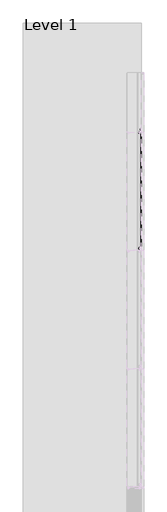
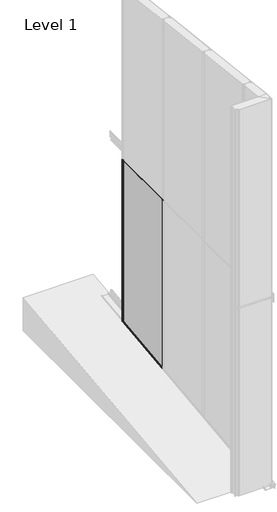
# One storey, part 9 of 12: 1 plate.
"""IFC4 building model written with IfcOpenShell, lengths in millimetres."""

from ifc_helpers import new_model, si_unit, frame, origin, place, context, project, spatial, polyline, circle_curve, ellipse_curve, element, save
from ifc_brep_helpers import plane_surface, cylinder_surface, revolved_surface, advanced_brep

model = new_model("IFC4")

# Units and contexts
model_context = context("Model", 3, world=origin())
ifc_project = project(units=[si_unit("LENGTHUNIT", "METRE", prefix="MILLI")], contexts=[model_context])

# Site, building, storey
site = spatial("IfcSite", under=ifc_project)
building = spatial("IfcBuilding", under=site)
storey = spatial("IfcBuildingStorey", under=building, Name="Level 1", Elevation=0.0)

# Plate
placement = place(None, origin())
element("IfcPlate", 1, ObjectType="TR_C_V_FHL_Panel : 120/RAL9006/RAL9002", at=placement, inside=storey, context=model_context, shape_type="AdvancedBrep", body=[
    advanced_brep(
    [(-3994.9155057, 7494.7075287, 2980.0), (-3994.9155057, 6506.1698321, 2980.0), (-3995.4720028, 6504.8263292, 2980.0), (-4000.2954046, 6500.0029273, 2980.0), (-4001.1155057, 6498.0230283, 2980.0), (-4001.1155057, 6495.2069118, 2980.0), (-4003.0155057, 6493.3069118, 2980.0), (-4008.9155057, 6493.3069118, 2980.0), (-4011.7155057, 6490.5069118, 2980.0), (-4011.7155057, 6471.3719831, 2980.0), (-4010.6206993, 6458.8582889, 2980.0), (-4002.8538462, 6457.9046392, 2980.0), (-4002.544232, 6458.8038241, 2980.0), (-4003.3006468, 6459.0642787, 2980.0), (-4003.610261, 6458.1650937, 2980.0), (-4009.8237435, 6458.9280134, 2980.0), (-4010.9155057, 6471.4069118, 2980.0), (-4010.9155057, 6490.5069118, 2980.0), (-4008.9155057, 6492.5069118, 2980.0), (-4003.0155057, 6492.5069118, 2980.0), (-4000.3155057, 6495.2069118, 2980.0), (-4000.3155057, 6498.0230283, 2980.0), (-3999.7297192, 6499.4372419, 2980.0), (-3994.9063173, 6504.2606438, 2980.0), (-3994.1155057, 6506.1698321, 2980.0), (-3994.1155057, 7494.7075287, 2980.0), (-3994.9741101, 7496.6821837, 2980.0), (-3996.9197088, 7498.4964839, 2980.0), (-4000.1155057, 7497.1069118, 2980.0), (-4000.1155057, 7464.7801836, 2980.0), (-4000.2517092, 7463.9662632, 2980.0), (-4002.5909089, 7457.1727339, 2980.0), (-4010.5519334, 7458.1502248, 2980.0), (-4011.4158468, 7468.0248012, 2980.0), (-4013.9063336, 7470.3069118, 2980.0), (-4014.9155057, 7470.3069118, 2980.0), (-4014.9155057, 7469.5069118, 2980.0), (-4013.9063336, 7469.5069118, 2980.0), (-4012.2128026, 7467.9550766, 2980.0), (-4011.3488891, 7458.0805002, 2980.0), (-4001.8344941, 7456.9122794, 2980.0), (-3999.4952944, 7463.7058087, 2980.0), (-3999.3155057, 7464.7801836, 2980.0), (-3999.3155057, 7497.1069118, 2980.0), (-3997.4653075, 7497.9114009, 2980.0), (-3995.5197088, 7496.0971008, 2980.0), (-3994.1155057, 6506.1698321, 430.9956884), (-3994.1155057, 7494.7075287, 545.9419322), (-3994.9155057, 7494.7075287, 545.9419322), (-3994.9155057, 6506.1698321, 430.9956884), (-3995.4720028, 6504.8263292, 430.8394671), (-4000.2954046, 6500.0029273, 430.2786064), (-4001.1155057, 6498.0230283, 430.0483856), (-4001.1155057, 6495.2069118, 429.7209302), (-4003.0155057, 6493.3069118, 429.5), (-4008.9155057, 6493.3069118, 429.5), (-4011.7155057, 6490.5069118, 429.1744186), (-4011.7155057, 6471.3719831, 426.9494269), (-4010.6206993, 6458.8582889, 425.4943461), (-4002.8538462, 6457.9046392, 425.3834566), (-4002.544232, 6458.8038241, 425.488013), (-4003.3006468, 6459.0642787, 425.5182984), (-4003.610261, 6458.1650937, 425.413742), (-4009.8237435, 6458.9280134, 425.5024536), (-4010.9155057, 6471.4069118, 426.9534883), (-4010.9155057, 6490.5069118, 429.1744186), (-4008.9155057, 6492.5069118, 429.4069767), (-4003.0155057, 6492.5069118, 429.4069767), (-4000.3155057, 6495.2069118, 429.7209302), (-4000.3155057, 6498.0230283, 430.0483856), (-3999.7297192, 6499.4372419, 430.212829), (-3994.9063173, 6504.2606438, 430.7736897), (-3994.9741101, 7496.6821837, 546.1715432), (-3996.9197088, 7498.4964839, 546.3825083), (-4000.1155057, 7497.1069118, 546.2209302), (-4000.1155057, 7464.7801836, 542.4620083), (-4000.2517092, 7463.9662632, 542.3673664), (-4002.5909089, 7457.1727339, 541.5774211), (-4010.5519334, 7458.1502248, 541.6910829), (-4011.4158468, 7468.0248012, 542.8392894), (-4013.9063336, 7470.3069118, 543.1046511), (-4014.9155057, 7470.3069118, 543.1046511), (-4014.9155057, 7469.5069118, 543.0116279), (-4013.9063336, 7469.5069118, 543.0116279), (-4012.2128026, 7467.9550766, 542.8311819), (-4011.3488891, 7458.0805002, 541.6829754), (-4001.8344941, 7456.9122794, 541.5471357), (-3999.4952944, 7463.7058087, 542.337081), (-3999.3155057, 7464.7801836, 542.4620083), (-3999.3155057, 7497.1069118, 546.2209302), (-3997.4653075, 7497.9114009, 546.3144754), (-3995.5197088, 7496.0971008, 546.1035103)],
    [
        (0, 1),
        (1, 2, circle_curve(frame((-3996.8155057, 6506.1698321, 2980.0), z_axis=(0.0, 0.0, -1.0), x_axis=(0.0, -1.0, 0.0)), 1.9)),
        (2, 3),
        (3, 4, circle_curve(frame((-3998.3155057, 6498.0230283, 2980.0), z_axis=(0.0, 0.0, 1.0), x_axis=(0.0, -1.0, 0.0)), 2.8)),
        (4, 5),
        (5, 6, circle_curve(frame((-4003.0155057, 6495.2069118, 2980.0), z_axis=(0.0, 0.0, -1.0), x_axis=(0.0, -1.0, 0.0)), 1.9)),
        (6, 7),
        (7, 8, circle_curve(frame((-4008.9155057, 6490.5069118, 2980.0), z_axis=(0.0, 0.0, 1.0), x_axis=(0.0, -1.0, 0.0)), 2.8)),
        (8, 9),
        (9, 10),
        (10, 11, circle_curve(frame((-4006.6359205, 6459.2069118, 2980.0), z_axis=(0.0, 0.0, 1.0), x_axis=(0.0, -1.0, 0.0)), 4.0)),
        (11, 12),
        (12, 13),
        (13, 14),
        (14, 15, circle_curve(frame((-4006.6359205, 6459.2069118, 2980.0), z_axis=(0.0, 0.0, -1.0), x_axis=(0.0, -1.0, 0.0)), 3.2)),
        (15, 16),
        (16, 17),
        (17, 18, circle_curve(frame((-4008.9155057, 6490.5069118, 2980.0), z_axis=(0.0, 0.0, -1.0), x_axis=(0.0, -1.0, 0.0)), 2.0)),
        (18, 19),
        (19, 20, circle_curve(frame((-4003.0155057, 6495.2069118, 2980.0), z_axis=(0.0, 0.0, 1.0), x_axis=(0.0, -1.0, 0.0)), 2.7)),
        (20, 21),
        (21, 22, circle_curve(frame((-3998.3155057, 6498.0230283, 2980.0), z_axis=(0.0, 0.0, -1.0), x_axis=(0.0, -1.0, 0.0)), 2.0)),
        (22, 23),
        (23, 24, circle_curve(frame((-3996.8155057, 6506.1698321, 2980.0), z_axis=(0.0, 0.0, 1.0), x_axis=(0.0, -1.0, 0.0)), 2.7)),
        (24, 25),
        (25, 26, circle_curve(frame((-3996.8155057, 7494.7075287, 2980.0), z_axis=(0.0, 0.0, 1.0), x_axis=(0.0, -1.0, 0.0)), 2.7)),
        (26, 27),
        (27, 28, circle_curve(frame((-3998.2155057, 7497.1069118, 2980.0), z_axis=(0.0, 0.0, 1.0), x_axis=(0.0, -1.0, 0.0)), 1.9)),
        (28, 29),
        (29, 30, circle_curve(frame((-4002.6155057, 7464.7801836, 2980.0), z_axis=(0.0, 0.0, -1.0), x_axis=(0.0, -1.0, 0.0)), 2.5)),
        (30, 31),
        (31, 32, circle_curve(frame((-4006.4675351, 7458.5075634, 2980.0), z_axis=(0.0, 0.0, -1.0), x_axis=(0.0, -1.0, 0.0)), 4.1)),
        (32, 33),
        (33, 34, circle_curve(frame((-4013.9063336, 7467.8069118, 2980.0), z_axis=(0.0, 0.0, 1.0), x_axis=(0.0, -1.0, 0.0)), 2.5)),
        (34, 35),
        (35, 36),
        (36, 37),
        (37, 38, circle_curve(frame((-4013.9063336, 7467.8069118, 2980.0), z_axis=(0.0, 0.0, -1.0), x_axis=(0.0, -1.0, 0.0)), 1.7)),
        (38, 39),
        (39, 40, circle_curve(frame((-4006.4675351, 7458.5075634, 2980.0), z_axis=(0.0, 0.0, 1.0), x_axis=(0.0, -1.0, 0.0)), 4.9)),
        (40, 41),
        (41, 42, circle_curve(frame((-4002.6155057, 7464.7801836, 2980.0), z_axis=(0.0, 0.0, 1.0), x_axis=(0.0, -1.0, 0.0)), 3.3)),
        (42, 43),
        (43, 44, circle_curve(frame((-3998.2155057, 7497.1069118, 2980.0), z_axis=(0.0, 0.0, -1.0), x_axis=(0.0, -1.0, 0.0)), 1.1)),
        (44, 45),
        (45, 0, circle_curve(frame((-3996.8155057, 7494.7075287, 2980.0), z_axis=(0.0, 0.0, -1.0), x_axis=(0.0, -1.0, 0.0)), 1.9)),
        (24, 46),
        (46, 47),
        (47, 25),
        (0, 48),
        (48, 49),
        (49, 1),
        (49, 50, ellipse_curve(frame((-3996.8155057, 6506.1698321, 430.9956884), z_axis=(0.0, 0.11550085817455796, -0.9933073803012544), x_axis=(0.0, -0.9933073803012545, -0.11550085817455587)), 1.9128017, 1.9)),
        (50, 2),
        (50, 51),
        (51, 3),
        (51, 52, ellipse_curve(frame((-3998.3155057, 6498.0230283, 430.0483856), z_axis=(0.0, -0.11550085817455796, 0.9933073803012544), x_axis=(0.0, 0.9933073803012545, 0.11550085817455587)), 2.8188656, 2.8)),
        (52, 4),
        (52, 53),
        (53, 5),
        (53, 54, ellipse_curve(frame((-4003.0155057, 6495.2069118, 429.7209302), z_axis=(0.0, 0.11550085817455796, -0.9933073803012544), x_axis=(0.0, -0.9933073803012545, -0.11550085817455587)), 1.9128017, 1.9)),
        (54, 6),
        (54, 55),
        (55, 7),
        (55, 56, ellipse_curve(frame((-4008.9155057, 6490.5069118, 429.1744186), z_axis=(0.0, -0.11550085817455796, 0.9933073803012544), x_axis=(0.0, 0.9933073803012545, 0.11550085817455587)), 2.8188656, 2.8)),
        (56, 8),
        (56, 57),
        (57, 9),
        (57, 58),
        (58, 10),
        (58, 59, ellipse_curve(frame((-4006.6359205, 6459.2069118, 425.5348837), z_axis=(0.0, -0.11550085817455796, 0.9933073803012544), x_axis=(0.0, 0.9933073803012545, 0.11550085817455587)), 4.0269509, 4.0)),
        (59, 11),
        (59, 60),
        (60, 12),
        (60, 61),
        (61, 13),
        (61, 62),
        (62, 14),
        (62, 63, ellipse_curve(frame((-4006.6359205, 6459.2069118, 425.5348837), z_axis=(0.0, 0.11550085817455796, -0.9933073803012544), x_axis=(0.0, -0.9933073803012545, -0.11550085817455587)), 3.2215607, 3.2)),
        (63, 15),
        (63, 64),
        (64, 16),
        (64, 65),
        (65, 17),
        (65, 66, ellipse_curve(frame((-4008.9155057, 6490.5069118, 429.1744186), z_axis=(0.0, 0.11550085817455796, -0.9933073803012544), x_axis=(0.0, -0.9933073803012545, -0.11550085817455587)), 2.0134754, 2.0)),
        (66, 18),
        (66, 67),
        (67, 19),
        (67, 68, ellipse_curve(frame((-4003.0155057, 6495.2069118, 429.7209302), z_axis=(0.0, -0.11550085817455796, 0.9933073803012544), x_axis=(0.0, 0.9933073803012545, 0.11550085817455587)), 2.7181918, 2.7)),
        (68, 20),
        (68, 69),
        (69, 21),
        (69, 70, ellipse_curve(frame((-3998.3155057, 6498.0230283, 430.0483856), z_axis=(0.0, 0.11550085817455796, -0.9933073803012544), x_axis=(0.0, -0.9933073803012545, -0.11550085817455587)), 2.0134754, 2.0)),
        (70, 22),
        (70, 71),
        (71, 23),
        (71, 46, ellipse_curve(frame((-3996.8155057, 6506.1698321, 430.9956884), z_axis=(0.0, -0.11550085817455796, 0.9933073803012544), x_axis=(0.0, 0.9933073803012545, 0.11550085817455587)), 2.7181918, 2.7)),
        (47, 72, ellipse_curve(frame((-3996.8155057, 7494.7075287, 545.9419322), z_axis=(0.0, -0.11550085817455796, 0.9933073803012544), x_axis=(0.0, 0.9933073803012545, 0.11550085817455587)), 2.7181918, 2.7)),
        (72, 26),
        (72, 73),
        (73, 27),
        (73, 74, ellipse_curve(frame((-3998.2155057, 7497.1069118, 546.2209302), z_axis=(0.0, -0.11550085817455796, 0.9933073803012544), x_axis=(0.0, 0.9933073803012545, 0.11550085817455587)), 1.9128017, 1.9)),
        (74, 28),
        (74, 75),
        (75, 29),
        (75, 76, ellipse_curve(frame((-4002.6155057, 7464.7801836, 542.4620083), z_axis=(0.0, 0.11550085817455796, -0.9933073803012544), x_axis=(0.0, -0.9933073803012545, -0.11550085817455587)), 2.5168443, 2.5)),
        (76, 30),
        (76, 77),
        (77, 31),
        (77, 78, ellipse_curve(frame((-4006.4675351, 7458.5075634, 541.7326339), z_axis=(0.0, 0.11550085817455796, -0.9933073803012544), x_axis=(0.0, -0.9933073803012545, -0.11550085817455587)), 4.1276246, 4.1)),
        (78, 32),
        (78, 79),
        (79, 33),
        (79, 80, ellipse_curve(frame((-4013.9063336, 7467.8069118, 542.8139535), z_axis=(0.0, -0.11550085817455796, 0.9933073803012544), x_axis=(0.0, 0.9933073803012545, 0.11550085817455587)), 2.5168443, 2.5)),
        (80, 34),
        (80, 81),
        (81, 35),
        (81, 82),
        (82, 36),
        (82, 83),
        (83, 37),
        (83, 84, ellipse_curve(frame((-4013.9063336, 7467.8069118, 542.8139535), z_axis=(0.0, 0.11550085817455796, -0.9933073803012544), x_axis=(0.0, -0.9933073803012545, -0.11550085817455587)), 1.7114541, 1.7)),
        (84, 38),
        (84, 85),
        (85, 39),
        (85, 86, ellipse_curve(frame((-4006.4675351, 7458.5075634, 541.7326339), z_axis=(0.0, -0.11550085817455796, 0.9933073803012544), x_axis=(0.0, 0.9933073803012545, 0.11550085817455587)), 4.9330148, 4.9)),
        (86, 40),
        (86, 87),
        (87, 41),
        (87, 88, ellipse_curve(frame((-4002.6155057, 7464.7801836, 542.4620083), z_axis=(0.0, -0.11550085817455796, 0.9933073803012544), x_axis=(0.0, 0.9933073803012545, 0.11550085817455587)), 3.3222345, 3.3)),
        (88, 42),
        (88, 89),
        (89, 43),
        (89, 90, ellipse_curve(frame((-3998.2155057, 7497.1069118, 546.2209302), z_axis=(0.0, 0.11550085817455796, -0.9933073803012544), x_axis=(0.0, -0.9933073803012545, -0.11550085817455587)), 1.1074115, 1.1)),
        (90, 44),
        (90, 91),
        (91, 45),
        (91, 48, ellipse_curve(frame((-3996.8155057, 7494.7075287, 545.9419322), z_axis=(0.0, 0.11550085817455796, -0.9933073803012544), x_axis=(0.0, -0.9933073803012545, -0.11550085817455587)), 1.9128017, 1.9)),
    ],
    [
        plane_surface(frame((-3994.9155057, 6485.2850853, 2980.0), z_axis=(0.0, 0.0, 1.0), x_axis=(0.0, -1.0, 0.0))),
        plane_surface(frame((-3994.1155057, 6506.1698321, 2980.0), z_axis=(1.0, 0.0, 0.0), x_axis=(0.0, 0.0, -1.0))),
        plane_surface(frame((-3994.9155057, 7494.7075287, 2980.0), z_axis=(-1.0, 0.0, 0.0), x_axis=(0.0, 0.0, -1.0))),
        revolved_surface(polyline([(-3996.8155057, 6504.269832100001, 430.77475816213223), (-3996.8155057, 6504.269832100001, 2980.0)]), (-3996.8155057, 6506.1698321, 150.0), (0.0, 0.0, -1.0)),
        plane_surface(frame((-3995.4720028, 6504.8263292, 2980.0), z_axis=(-0.7071067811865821, 0.7071067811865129, 0.0), x_axis=(0.0, 0.0, -1.0))),
        cylinder_surface(frame((-3998.3155057, 6498.0230283, 150.0), z_axis=(0.0, 0.0, 1.0), x_axis=(0.0, -1.0, 0.0)), 2.8),
        plane_surface(frame((-4001.1155057, 6498.0230283, 2980.0), z_axis=(-1.0, 0.0, 0.0), x_axis=(0.0, 0.0, -1.0))),
        revolved_surface(polyline([(-4003.0155057, 6493.3069118, 429.4999999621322), (-4003.0155057, 6493.3069118, 2980.0)]), (-4003.0155057, 6495.2069118, 150.0), (0.0, 0.0, -1.0)),
        plane_surface(frame((-4003.0155057, 6493.3069118, 2980.0), z_axis=(0.0, 1.0, 0.0), x_axis=(0.0, 0.0, -1.0))),
        cylinder_surface(frame((-4008.9155057, 6490.5069118, 150.0), z_axis=(0.0, 0.0, 1.0), x_axis=(0.0, -1.0, 0.0)), 2.8),
        plane_surface(frame((-4011.7155057, 6490.5069118, 2980.0), z_axis=(-1.0, 0.0, 0.0), x_axis=(0.0, 0.0, -1.0))),
        plane_surface(frame((-4011.7155057, 6471.3719831, 2980.0), z_axis=(-0.9961946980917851, -0.08715574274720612, 0.0), x_axis=(0.0, 0.0, -1.0))),
        cylinder_surface(frame((-4006.6359205, 6459.2069118, 150.0), z_axis=(0.0, 0.0, 1.0), x_axis=(0.0, -1.0, 0.0)), 4.0),
        plane_surface(frame((-4002.8538462, 6457.9046392, 2980.0), z_axis=(0.9455185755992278, -0.32556815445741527, 0.0), x_axis=(0.0, 0.0, -1.0))),
        plane_surface(frame((-4002.544232, 6458.8038241, 2980.0), z_axis=(0.325568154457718, 0.9455185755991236, 0.0), x_axis=(0.0, 0.0, -1.0))),
        plane_surface(frame((-4003.3006468, 6459.0642787, 2980.0), z_axis=(-0.9455185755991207, 0.32556815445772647, 0.0), x_axis=(0.0, 0.0, -1.0))),
        revolved_surface(polyline([(-4006.6359205, 6456.0069118, 425.1627906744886), (-4006.6359205, 6456.0069118, 2980.0)]), (-4006.6359205, 6459.2069118, 150.0), (0.0, 0.0, -1.0)),
        plane_surface(frame((-4009.8237435, 6458.9280134, 2980.0), z_axis=(0.9961946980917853, 0.08715574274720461, 0.0), x_axis=(0.0, 0.0, -1.0))),
        plane_surface(frame((-4010.9155057, 6471.4069118, 2980.0), z_axis=(1.0, 0.0, 0.0), x_axis=(0.0, 0.0, -1.0))),
        revolved_surface(polyline([(-4008.9155057, 6488.5069118, 428.94186046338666), (-4008.9155057, 6488.5069118, 2980.0)]), (-4008.9155057, 6490.5069118, 150.0), (0.0, 0.0, -1.0)),
        plane_surface(frame((-4008.9155057, 6492.5069118, 2980.0), z_axis=(0.0, -1.0, 0.0), x_axis=(0.0, 0.0, -1.0))),
        cylinder_surface(frame((-4003.0155057, 6495.2069118, 150.0), z_axis=(0.0, 0.0, 1.0), x_axis=(0.0, -1.0, 0.0)), 2.7),
        plane_surface(frame((-4000.3155057, 6495.2069118, 2980.0), z_axis=(1.0, 0.0, 0.0), x_axis=(0.0, 0.0, -1.0))),
        revolved_surface(polyline([(-3998.3155057, 6496.0230283, 429.81582746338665), (-3998.3155057, 6496.0230283, 2980.0)]), (-3998.3155057, 6498.0230283, 150.0), (0.0, 0.0, -1.0)),
        plane_surface(frame((-3999.7297192, 6499.4372419, 2980.0), z_axis=(0.7071067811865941, -0.707106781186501, 0.0), x_axis=(0.0, 0.0, -1.0))),
        cylinder_surface(frame((-3996.8155057, 6506.1698321, 150.0), z_axis=(0.0, 0.0, 1.0), x_axis=(0.0, -1.0, 0.0)), 2.7),
        cylinder_surface(frame((-3996.8155057, 7494.7075287, 150.0), z_axis=(0.0, 0.0, 1.0), x_axis=(0.0, -1.0, 0.0)), 2.7),
        plane_surface(frame((-3994.9741101, 7496.6821837, 2980.0), z_axis=(0.6819983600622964, 0.7313537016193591, 0.0), x_axis=(0.0, 0.0, -1.0))),
        cylinder_surface(frame((-3998.2155057, 7497.1069118, 150.0), z_axis=(0.0, 0.0, 1.0), x_axis=(0.0, -1.0, 0.0)), 1.9),
        plane_surface(frame((-4000.1155057, 7497.1069118, 2980.0), z_axis=(-1.0, 0.0, 0.0), x_axis=(0.0, 0.0, -1.0))),
        revolved_surface(polyline([(-4002.6155057, 7462.2801836, 542.1713106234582), (-4002.6155057, 7462.2801836, 2980.0)]), (-4002.6155057, 7464.7801836, 150.0), (0.0, 0.0, -1.0)),
        plane_surface(frame((-4000.2517092, 7463.9662632, 2980.0), z_axis=(-0.9455185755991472, 0.3255681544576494, 0.0), x_axis=(0.0, 0.0, -1.0))),
        revolved_surface(polyline([(-4006.4675351, 7454.4075634, 541.2558897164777), (-4006.4675351, 7454.4075634, 2980.0)]), (-4006.4675351, 7458.5075634, 150.0), (0.0, 0.0, -1.0)),
        plane_surface(frame((-4010.5519334, 7458.1502248, 2980.0), z_axis=(0.9961946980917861, 0.08715574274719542, 0.0), x_axis=(0.0, 0.0, -1.0))),
        cylinder_surface(frame((-4013.9063336, 7467.8069118, 150.0), z_axis=(0.0, 0.0, 1.0), x_axis=(0.0, -1.0, 0.0)), 2.5),
        plane_surface(frame((-4013.9063336, 7470.3069118, 2980.0), z_axis=(0.0, 1.0, 0.0), x_axis=(0.0, 0.0, -1.0))),
        plane_surface(frame((-4014.9155057, 7470.3069118, 2980.0), z_axis=(-1.0, 0.0, 0.0), x_axis=(0.0, 0.0, -1.0))),
        plane_surface(frame((-4014.9155057, 7469.5069118, 2980.0), z_axis=(0.0, -1.0, 0.0), x_axis=(0.0, 0.0, -1.0))),
        revolved_surface(polyline([(-4013.9063336, 7466.1069118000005, 542.6162790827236), (-4013.9063336, 7466.1069118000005, 2980.0)]), (-4013.9063336, 7467.8069118, 150.0), (0.0, 0.0, -1.0)),
        plane_surface(frame((-4012.2128026, 7467.9550766, 2980.0), z_axis=(-0.9961946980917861, -0.08715574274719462, 0.0), x_axis=(0.0, 0.0, -1.0))),
        cylinder_surface(frame((-4006.4675351, 7458.5075634, 150.0), z_axis=(0.0, 0.0, 1.0), x_axis=(0.0, -1.0, 0.0)), 4.9),
        plane_surface(frame((-4001.8344941, 7456.9122794, 2980.0), z_axis=(0.9455185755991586, -0.3255681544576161, 0.0), x_axis=(0.0, 0.0, -1.0))),
        cylinder_surface(frame((-4002.6155057, 7464.7801836, 150.0), z_axis=(0.0, 0.0, 1.0), x_axis=(0.0, -1.0, 0.0)), 3.3),
        plane_surface(frame((-3999.3155057, 7464.7801836, 2980.0), z_axis=(1.0, 0.0, 0.0), x_axis=(0.0, 0.0, -1.0))),
        revolved_surface(polyline([(-3998.2155057, 7496.006911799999, 546.0930232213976), (-3998.2155057, 7496.006911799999, 2980.0)]), (-3998.2155057, 7497.1069118, 150.0), (0.0, 0.0, -1.0)),
        plane_surface(frame((-3997.4653075, 7497.9114009, 2980.0), z_axis=(-0.6819983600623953, -0.7313537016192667, 0.0), x_axis=(0.0, 0.0, -1.0))),
        revolved_surface(polyline([(-3996.8155057, 7492.8075287, 545.7210019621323), (-3996.8155057, 7492.8075287, 2980.0)]), (-3996.8155057, 7494.7075287, 150.0), (0.0, 0.0, -1.0)),
        plane_surface(frame((-3994.1155057, 6239.6069121, 400.0), z_axis=(0.0, 0.11550085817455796, -0.9933073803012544), x_axis=(0.0, 0.9933073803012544, 0.11550085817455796))),
    ],
    [
        (0, [[1, 2, 3, 4, 5, 6, 7, 8, 9, 10, 11, 12, 13, 14, 15, 16, 17, 18, 19, 20, 21, 22, 23, 24, 25, 26, 27, 28, 29, 30, 31, 32, 33, 34, 35, 36, 37, 38, 39, 40, 41, 42, 43, 44, 45, 46]]),
        (1, [[-25, 47, 48, 49]]),
        (2, [[-1, 50, 51, 52]]),
        (3, [[-2, -52, 53, 54]]),
        (4, [[-3, -54, 55, 56]]),
        (5, [[-4, -56, 57, 58]]),
        (6, [[-5, -58, 59, 60]]),
        (7, [[-6, -60, 61, 62]]),
        (8, [[-7, -62, 63, 64]]),
        (9, [[-8, -64, 65, 66]]),
        (10, [[-9, -66, 67, 68]]),
        (11, [[-10, -68, 69, 70]]),
        (12, [[-11, -70, 71, 72]]),
        (13, [[-12, -72, 73, 74]]),
        (14, [[-13, -74, 75, 76]]),
        (15, [[-14, -76, 77, 78]]),
        (16, [[-15, -78, 79, 80]]),
        (17, [[-16, -80, 81, 82]]),
        (18, [[-17, -82, 83, 84]]),
        (19, [[-18, -84, 85, 86]]),
        (20, [[-19, -86, 87, 88]]),
        (21, [[-20, -88, 89, 90]]),
        (22, [[-21, -90, 91, 92]]),
        (23, [[-22, -92, 93, 94]]),
        (24, [[-23, -94, 95, 96]]),
        (25, [[-24, -96, 97, -47]]),
        (26, [[-26, -49, 98, 99]]),
        (27, [[-27, -99, 100, 101]]),
        (28, [[-28, -101, 102, 103]]),
        (29, [[-29, -103, 104, 105]]),
        (30, [[-30, -105, 106, 107]]),
        (31, [[-31, -107, 108, 109]]),
        (32, [[-32, -109, 110, 111]]),
        (33, [[-33, -111, 112, 113]]),
        (34, [[-34, -113, 114, 115]]),
        (35, [[-35, -115, 116, 117]]),
        (36, [[-36, -117, 118, 119]]),
        (37, [[-37, -119, 120, 121]]),
        (38, [[-38, -121, 122, 123]]),
        (39, [[-39, -123, 124, 125]]),
        (40, [[-40, -125, 126, 127]]),
        (41, [[-41, -127, 128, 129]]),
        (42, [[-42, -129, 130, 131]]),
        (43, [[-43, -131, 132, 133]]),
        (44, [[-44, -133, 134, 135]]),
        (45, [[-45, -135, 136, 137]]),
        (46, [[-46, -137, 138, -50]]),
        (47, [[-48, -97, -95, -93, -91, -89, -87, -85, -83, -81, -79, -77, -75, -73, -71, -69, -67, -65, -63, -61, -59, -57, -55, -53, -51, -138, -136, -134, -132, -130, -128, -126, -124, -122, -120, -118, -116, -114, -112, -110, -108, -106, -104, -102, -100, -98]]),
    ],
),
    advanced_brep(
    [(-4113.3155057, 7449.7069118, 2980.0), (-4113.3155057, 6479.7850864, 2980.0), (-4112.6711406, 6478.2294515, 2980.0), (-4108.2820533, 6473.8403642, 2980.0), (-4107.3155057, 6471.5069118, 2980.0), (-4107.3155057, 6469.6069118, 2980.0), (-4011.5610819, 6469.6069118, 2980.0), (-4011.7155057, 6471.3719831, 2980.0), (-4011.7155057, 6490.5069118, 2980.0), (-4008.9155057, 6493.3069118, 2980.0), (-4003.0155057, 6493.3069118, 2980.0), (-4001.1155057, 6495.2069118, 2980.0), (-4001.1155057, 6498.0230283, 2980.0), (-4000.2954046, 6500.0029273, 2980.0), (-3995.4720028, 6504.8263292, 2980.0), (-3994.9155057, 6506.1698321, 2980.0), (-3994.9155057, 7453.6075634, 2980.0), (-4006.4675351, 7453.6075634, 2980.0), (-4011.3488891, 7458.0805002, 2980.0), (-4012.2128026, 7467.9550766, 2980.0), (-4013.9063336, 7469.5069118, 2980.0), (-4014.9155057, 7469.6069118, 2980.0), (-4088.9755057, 7469.6069118, 2980.0), (-4088.9755057, 7461.7069118, 2980.0), (-4096.5080645, 7461.7069118, 2980.0), (-4099.4132474, 7459.2691739, 2980.0), (-4100.4800727, 7453.2189071, 2980.0), (-4104.6655057, 7449.7069118, 2980.0), (-4113.3155057, 7449.7069118, 540.7093023), (-4113.3155057, 6479.7850864, 427.9276947), (-4112.6711406, 6478.2294515, 427.7468069), (-4108.2820533, 6473.8403642, 427.2364479), (-4107.3155057, 6471.5069118, 426.9651162), (-4107.3155057, 6469.6069118, 426.744186), (-4011.5610819, 6469.6069118, 426.744186), (-4011.7155057, 6471.3719831, 426.9494269), (-4011.7155057, 6490.5069118, 429.1744186), (-4008.9155057, 6493.3069118, 429.5), (-4003.0155057, 6493.3069118, 429.5), (-4001.1155057, 6495.2069118, 429.7209302), (-4001.1155057, 6498.0230283, 430.0483856), (-4000.2954046, 6500.0029273, 430.2786064), (-3995.4720028, 6504.8263292, 430.8394671), (-3994.9155057, 6506.1698321, 430.9956884), (-3994.9155057, 7453.6075634, 541.1628664), (-4006.4675351, 7453.6075634, 541.1628664), (-4011.3488891, 7458.0805002, 541.6829754), (-4012.2128026, 7467.9550766, 542.8311819), (-4013.9063336, 7469.5069118, 543.0116279), (-4014.9155057, 7469.6069118, 543.0232558), (-4088.9755057, 7469.6069118, 543.0232558), (-4088.9755057, 7461.7069118, 542.1046511), (-4096.5080645, 7461.7069118, 542.1046511), (-4099.4132474, 7459.2691739, 541.8211932), (-4100.4800727, 7453.2189071, 541.1176738), (-4104.6655057, 7449.7069118, 540.7093023)],
    [
        (0, 1),
        (1, 2, circle_curve(frame((-4111.1155057, 6479.7850864, 2980.0), z_axis=(0.0, 0.0, 1.0), x_axis=(0.0, -1.0, 0.0)), 2.2)),
        (2, 3),
        (3, 4, circle_curve(frame((-4110.6155057, 6471.5069118, 2980.0), z_axis=(0.0, 0.0, -1.0), x_axis=(0.0, -1.0, 0.0)), 3.3)),
        (4, 5),
        (5, 6),
        (6, 7),
        (7, 8),
        (8, 9, circle_curve(frame((-4008.9155057, 6490.5069118, 2980.0), z_axis=(0.0, 0.0, -1.0), x_axis=(0.0, -1.0, 0.0)), 2.8)),
        (9, 10),
        (10, 11, circle_curve(frame((-4003.0155057, 6495.2069118, 2980.0), z_axis=(0.0, 0.0, 1.0), x_axis=(0.0, -1.0, 0.0)), 1.9)),
        (11, 12),
        (12, 13, circle_curve(frame((-3998.3155057, 6498.0230283, 2980.0), z_axis=(0.0, 0.0, -1.0), x_axis=(0.0, -1.0, 0.0)), 2.8)),
        (13, 14),
        (14, 15, circle_curve(frame((-3996.8155057, 6506.1698321, 2980.0), z_axis=(0.0, 0.0, 1.0), x_axis=(0.0, -1.0, 0.0)), 1.9)),
        (15, 16),
        (16, 17),
        (17, 18, circle_curve(frame((-4006.4675351, 7458.5075634, 2980.0), z_axis=(0.0, 0.0, -1.0), x_axis=(0.0, -1.0, 0.0)), 4.9)),
        (18, 19),
        (19, 20, circle_curve(frame((-4013.9063336, 7467.8069118, 2980.0), z_axis=(0.0, 0.0, 1.0), x_axis=(0.0, -1.0, 0.0)), 1.7)),
        (20, 21),
        (21, 22),
        (22, 23),
        (23, 24),
        (24, 25, circle_curve(frame((-4096.5080645, 7458.7569118, 2980.0), z_axis=(0.0, 0.0, 1.0), x_axis=(0.0, -1.0, 0.0)), 2.95)),
        (25, 26),
        (26, 27, circle_curve(frame((-4104.6655057, 7453.9569118, 2980.0), z_axis=(0.0, 0.0, -1.0), x_axis=(0.0, -1.0, 0.0)), 4.25)),
        (27, 0),
        (0, 28),
        (28, 29),
        (29, 1),
        (29, 30, ellipse_curve(frame((-4111.1155057, 6479.7850864, 427.9276947), z_axis=(0.0, -0.11550085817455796, 0.9933073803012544), x_axis=(0.0, 0.9933073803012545, 0.11550085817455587)), 2.214823, 2.2)),
        (30, 2),
        (30, 31),
        (31, 3),
        (31, 32, ellipse_curve(frame((-4110.6155057, 6471.5069118, 426.9651162), z_axis=(0.0, 0.11550085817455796, -0.9933073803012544), x_axis=(0.0, -0.9933073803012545, -0.11550085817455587)), 3.3222345, 3.3)),
        (32, 4),
        (32, 33),
        (33, 5),
        (33, 34),
        (34, 6),
        (34, 35),
        (35, 7),
        (35, 36),
        (36, 8),
        (36, 37, ellipse_curve(frame((-4008.9155057, 6490.5069118, 429.1744186), z_axis=(0.0, 0.11550085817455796, -0.9933073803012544), x_axis=(0.0, -0.9933073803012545, -0.11550085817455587)), 2.8188656, 2.8)),
        (37, 9),
        (37, 38),
        (38, 10),
        (38, 39, ellipse_curve(frame((-4003.0155057, 6495.2069118, 429.7209302), z_axis=(0.0, -0.11550085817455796, 0.9933073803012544), x_axis=(0.0, 0.9933073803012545, 0.11550085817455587)), 1.9128017, 1.9)),
        (39, 11),
        (39, 40),
        (40, 12),
        (40, 41, ellipse_curve(frame((-3998.3155057, 6498.0230283, 430.0483856), z_axis=(0.0, 0.11550085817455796, -0.9933073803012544), x_axis=(0.0, -0.9933073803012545, -0.11550085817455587)), 2.8188656, 2.8)),
        (41, 13),
        (41, 42),
        (42, 14),
        (42, 43, ellipse_curve(frame((-3996.8155057, 6506.1698321, 430.9956884), z_axis=(0.0, -0.11550085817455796, 0.9933073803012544), x_axis=(0.0, 0.9933073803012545, 0.11550085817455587)), 1.9128017, 1.9)),
        (43, 15),
        (43, 44),
        (44, 16),
        (44, 45),
        (45, 17),
        (45, 46, ellipse_curve(frame((-4006.4675351, 7458.5075634, 541.7326339), z_axis=(0.0, 0.11550085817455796, -0.9933073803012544), x_axis=(0.0, -0.9933073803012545, -0.11550085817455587)), 4.9330148, 4.9)),
        (46, 18),
        (46, 47),
        (47, 19),
        (47, 48, ellipse_curve(frame((-4013.9063336, 7467.8069118, 542.8139535), z_axis=(0.0, -0.11550085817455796, 0.9933073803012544), x_axis=(0.0, 0.9933073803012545, 0.11550085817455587)), 1.7114541, 1.7)),
        (48, 20),
        (48, 49),
        (49, 21),
        (49, 50),
        (50, 22),
        (50, 51),
        (51, 23),
        (51, 52),
        (52, 24),
        (52, 53, ellipse_curve(frame((-4096.5080645, 7458.7569118, 541.7616279), z_axis=(0.0, -0.11550085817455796, 0.9933073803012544), x_axis=(0.0, 0.9933073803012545, 0.11550085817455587)), 2.9698763, 2.95)),
        (53, 25),
        (53, 54),
        (54, 26),
        (54, 55, ellipse_curve(frame((-4104.6655057, 7453.9569118, 541.2034883), z_axis=(0.0, 0.11550085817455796, -0.9933073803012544), x_axis=(0.0, -0.9933073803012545, -0.11550085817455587)), 4.2786353, 4.25)),
        (55, 27),
        (55, 28),
    ],
    [
        plane_surface(frame((-4113.3155057, 6479.7850864, 2980.0), z_axis=(0.0, 0.0, 1.0), x_axis=(0.0, -1.0, 0.0))),
        plane_surface(frame((-4113.3155057, 7449.7069118, 2980.0), z_axis=(-1.0, 0.0, 0.0), x_axis=(0.0, 0.0, -1.0))),
        cylinder_surface(frame((-4111.1155057, 6479.7850864, 150.0), z_axis=(0.0, 0.0, 1.0), x_axis=(0.0, -1.0, 0.0)), 2.2),
        plane_surface(frame((-4112.6711406, 6478.2294515, 2980.0), z_axis=(-0.7071067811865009, -0.7071067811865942, 0.0), x_axis=(0.0, 0.0, -1.0))),
        revolved_surface(polyline([(-4110.6155057, 6468.2069118, 426.5813952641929), (-4110.6155057, 6468.2069118, 2980.0)]), (-4110.6155057, 6471.5069118, 150.0), (0.0, 0.0, -1.0)),
        plane_surface(frame((-4107.3155057, 6471.5069118, 2980.0), z_axis=(-1.0, 0.0, 0.0), x_axis=(0.0, 0.0, -1.0))),
        plane_surface(frame((-4107.3155057, 6469.6069118, 2980.0), z_axis=(0.0, -1.0, 0.0), x_axis=(0.0, 0.0, -1.0))),
        plane_surface(frame((-4011.5610819, 6469.6069118, 2980.0), z_axis=(0.9961946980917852, 0.08715574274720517, 0.0), x_axis=(0.0, 0.0, -1.0))),
        plane_surface(frame((-4011.7155057, 6471.3719831, 2980.0), z_axis=(1.0, 0.0, 0.0), x_axis=(0.0, 0.0, -1.0))),
        revolved_surface(polyline([(-4008.9155057, 6487.7069118, 428.8488372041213), (-4008.9155057, 6487.7069118, 2980.0)]), (-4008.9155057, 6490.5069118, 150.0), (0.0, 0.0, -1.0)),
        plane_surface(frame((-4008.9155057, 6493.3069118, 2980.0), z_axis=(0.0, -1.0, 0.0), x_axis=(0.0, 0.0, -1.0))),
        cylinder_surface(frame((-4003.0155057, 6495.2069118, 150.0), z_axis=(0.0, 0.0, 1.0), x_axis=(0.0, -1.0, 0.0)), 1.9),
        plane_surface(frame((-4001.1155057, 6495.2069118, 2980.0), z_axis=(1.0, 0.0, 0.0), x_axis=(0.0, 0.0, -1.0))),
        revolved_surface(polyline([(-3998.3155057, 6495.2230283, 429.7228042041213), (-3998.3155057, 6495.2230283, 2980.0)]), (-3998.3155057, 6498.0230283, 150.0), (0.0, 0.0, -1.0)),
        plane_surface(frame((-4000.2954046, 6500.0029273, 2980.0), z_axis=(0.707106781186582, -0.7071067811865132, 0.0), x_axis=(0.0, 0.0, -1.0))),
        cylinder_surface(frame((-3996.8155057, 6506.1698321, 150.0), z_axis=(0.0, 0.0, 1.0), x_axis=(0.0, -1.0, 0.0)), 1.9),
        plane_surface(frame((-3994.9155057, 6506.1698321, 2980.0), z_axis=(1.0, 0.0, 0.0), x_axis=(0.0, 0.0, -1.0))),
        plane_surface(frame((-3994.9155057, 7453.6075634, 2980.0), z_axis=(0.0, 1.0, 0.0), x_axis=(0.0, 0.0, -1.0))),
        revolved_surface(polyline([(-4006.4675351, 7453.607563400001, 541.1628664), (-4006.4675351, 7453.607563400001, 2980.0)]), (-4006.4675351, 7458.5075634, 150.0), (0.0, 0.0, -1.0)),
        plane_surface(frame((-4011.3488891, 7458.0805002, 2980.0), z_axis=(0.9961946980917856, 0.08715574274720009, 0.0), x_axis=(0.0, 0.0, -1.0))),
        cylinder_surface(frame((-4013.9063336, 7467.8069118, 150.0), z_axis=(0.0, 0.0, 1.0), x_axis=(0.0, -1.0, 0.0)), 1.7),
        plane_surface(frame((-4013.9063336, 7469.5069118, 2980.0), z_axis=(0.0986081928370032, 0.9951263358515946, 0.0), x_axis=(0.0, 0.0, -1.0))),
        plane_surface(frame((-4014.9155057, 7469.6069118, 2980.0), z_axis=(0.0, 1.0, 0.0), x_axis=(0.0, 0.0, -1.0))),
        plane_surface(frame((-4088.9755057, 7469.6069118, 2980.0), z_axis=(-1.0, 0.0, 0.0), x_axis=(0.0, 0.0, -1.0))),
        plane_surface(frame((-4088.9755057, 7461.7069118, 2980.0), z_axis=(0.0, 1.0, 0.0), x_axis=(0.0, 0.0, -1.0))),
        cylinder_surface(frame((-4096.5080645, 7458.7569118, 150.0), z_axis=(0.0, 0.0, 1.0), x_axis=(0.0, -1.0, 0.0)), 2.95),
        plane_surface(frame((-4099.4132474, 7459.2691739, 2980.0), z_axis=(-0.984807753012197, 0.1736481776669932, 0.0), x_axis=(0.0, 0.0, -1.0))),
        revolved_surface(polyline([(-4104.6655057, 7449.7069118, 540.709302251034), (-4104.6655057, 7449.7069118, 2980.0)]), (-4104.6655057, 7453.9569118, 150.0), (0.0, 0.0, -1.0)),
        plane_surface(frame((-4104.6655057, 7449.7069118, 2980.0), z_axis=(0.0, 1.0, 0.0), x_axis=(0.0, 0.0, -1.0))),
        plane_surface(frame((-3994.1155057, 6239.6069121, 400.0), z_axis=(0.0, 0.11550085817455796, -0.9933073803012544), x_axis=(0.0, 0.9933073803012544, 0.11550085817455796))),
    ],
    [
        (0, [[1, 2, 3, 4, 5, 6, 7, 8, 9, 10, 11, 12, 13, 14, 15, 16, 17, 18, 19, 20, 21, 22, 23, 24, 25, 26, 27, 28]]),
        (1, [[-1, 29, 30, 31]]),
        (2, [[-2, -31, 32, 33]]),
        (3, [[-3, -33, 34, 35]]),
        (4, [[-4, -35, 36, 37]]),
        (5, [[-5, -37, 38, 39]]),
        (6, [[-6, -39, 40, 41]]),
        (7, [[-7, -41, 42, 43]]),
        (8, [[-8, -43, 44, 45]]),
        (9, [[-9, -45, 46, 47]]),
        (10, [[-10, -47, 48, 49]]),
        (11, [[-11, -49, 50, 51]]),
        (12, [[-12, -51, 52, 53]]),
        (13, [[-13, -53, 54, 55]]),
        (14, [[-14, -55, 56, 57]]),
        (15, [[-15, -57, 58, 59]]),
        (16, [[-16, -59, 60, 61]]),
        (17, [[-17, -61, 62, 63]]),
        (18, [[-18, -63, 64, 65]]),
        (19, [[-19, -65, 66, 67]]),
        (20, [[-20, -67, 68, 69]]),
        (21, [[-21, -69, 70, 71]]),
        (22, [[-22, -71, 72, 73]]),
        (23, [[-23, -73, 74, 75]]),
        (24, [[-24, -75, 76, 77]]),
        (25, [[-25, -77, 78, 79]]),
        (26, [[-26, -79, 80, 81]]),
        (27, [[-27, -81, 82, 83]]),
        (28, [[-28, -83, 84, -29]]),
        (29, [[-30, -84, -82, -80, -78, -76, -74, -72, -70, -68, -66, -64, -62, -60, -58, -56, -54, -52, -50, -48, -46, -44, -42, -40, -38, -36, -34, -32]]),
    ],
),
    advanced_brep(
    [(-4093.1155057, 7462.5069118, 2980.0), (-4096.5080645, 7462.5069118, 2980.0), (-4100.2010936, 7459.4080925, 2980.0), (-4101.2679189, 7453.3578256, 2980.0), (-4108.1155057, 7453.9569118, 2980.0), (-4108.1155057, 7471.5569118, 2980.0), (-4111.4443639, 7472.93577, 2980.0), (-4113.3100493, 7471.0700846, 2980.0), (-4114.1155057, 7469.125541, 2980.0), (-4114.1155057, 6479.7850864, 2980.0), (-4113.236826, 6477.6637661, 2980.0), (-4108.8477387, 6473.2746788, 2980.0), (-4108.1155057, 6471.5069118, 2980.0), (-4108.1155057, 6456.7569118, 2980.0), (-4101.6648805, 6456.1925552, 2980.0), (-4100.9215675, 6460.4080925, 2980.0), (-4097.2285384, 6463.5069118, 2980.0), (-4093.1155057, 6463.5069118, 2980.0), (-4093.1155057, 6464.3069118, 2980.0), (-4097.2285384, 6464.3069118, 2980.0), (-4101.7094137, 6460.547011, 2980.0), (-4102.4527267, 6456.3314738, 2980.0), (-4107.3155057, 6456.7569118, 2980.0), (-4107.3155057, 6471.5069118, 2980.0), (-4108.2820533, 6473.8403642, 2980.0), (-4112.6711406, 6478.2294515, 2980.0), (-4113.3155057, 6479.7850864, 2980.0), (-4113.3155057, 7469.125541, 2980.0), (-4112.7443639, 7470.5043992, 2980.0), (-4110.8786785, 7472.3700846, 2980.0), (-4108.9155057, 7471.5569118, 2980.0), (-4108.9155057, 7453.9569118, 2980.0), (-4100.4800727, 7453.2189071, 2980.0), (-4099.4132474, 7459.2691739, 2980.0), (-4096.5080645, 7461.7069118, 2980.0), (-4093.1155057, 7461.7069118, 2980.0), (-4093.1155057, 7462.5069118, 542.1976744), (-4096.5080645, 7462.5069118, 542.1976744), (-4100.2010936, 7459.4080925, 541.8373466), (-4101.2679189, 7453.3578256, 541.1338271), (-4108.1155057, 7453.9569118, 541.2034883), (-4108.1155057, 7471.5569118, 543.25), (-4111.4443639, 7472.93577, 543.4103323), (-4113.3100493, 7471.0700846, 543.1933922), (-4114.1155057, 7469.125541, 542.9672824), (-4114.1155057, 6479.7850864, 427.9276947), (-4113.236826, 6477.6637661, 427.6810295), (-4108.8477387, 6473.2746788, 427.1706705), (-4108.1155057, 6471.5069118, 426.9651162), (-4108.1155057, 6456.7569118, 425.25), (-4101.6648805, 6456.1925552, 425.1843771), (-4100.9215675, 6460.4080925, 425.6745559), (-4097.2285384, 6463.5069118, 426.0348837), (-4093.1155057, 6463.5069118, 426.0348837), (-4093.1155057, 6464.3069118, 426.1279069), (-4097.2285384, 6464.3069118, 426.1279069), (-4101.7094137, 6460.547011, 425.6907092), (-4102.4527267, 6456.3314738, 425.2005304), (-4107.3155057, 6456.7569118, 425.25), (-4107.3155057, 6471.5069118, 426.9651162), (-4108.2820533, 6473.8403642, 427.2364479), (-4112.6711406, 6478.2294515, 427.7468069), (-4113.3155057, 6479.7850864, 427.9276947), (-4113.3155057, 7469.125541, 542.9672824), (-4112.7443639, 7470.5043992, 543.1276148), (-4110.8786785, 7472.3700846, 543.3445549), (-4108.9155057, 7471.5569118, 543.25), (-4108.9155057, 7453.9569118, 541.2034883), (-4100.4800727, 7453.2189071, 541.1176738), (-4099.4132474, 7459.2691739, 541.8211932), (-4096.5080645, 7461.7069118, 542.1046511), (-4093.1155057, 7461.7069118, 542.1046511)],
    [
        (0, 1),
        (1, 2, circle_curve(frame((-4096.5080645, 7458.7569118, 2980.0), z_axis=(0.0, 0.0, 1.0), x_axis=(0.0, -1.0, 0.0)), 3.75)),
        (2, 3),
        (3, 4, circle_curve(frame((-4104.6655057, 7453.9569118, 2980.0), z_axis=(0.0, 0.0, -1.0), x_axis=(0.0, -1.0, 0.0)), 3.45)),
        (4, 5),
        (5, 6, circle_curve(frame((-4110.0655057, 7471.5569118, 2980.0), z_axis=(0.0, 0.0, 1.0), x_axis=(0.0, -1.0, 0.0)), 1.95)),
        (6, 7),
        (7, 8, circle_curve(frame((-4111.3655057, 7469.125541, 2980.0), z_axis=(0.0, 0.0, 1.0), x_axis=(0.0, -1.0, 0.0)), 2.75)),
        (8, 9),
        (9, 10, circle_curve(frame((-4111.1155057, 6479.7850864, 2980.0), z_axis=(0.0, 0.0, 1.0), x_axis=(0.0, -1.0, 0.0)), 3.0)),
        (10, 11),
        (11, 12, circle_curve(frame((-4110.6155057, 6471.5069118, 2980.0), z_axis=(0.0, 0.0, -1.0), x_axis=(0.0, -1.0, 0.0)), 2.5)),
        (12, 13),
        (13, 14, circle_curve(frame((-4104.8655057, 6456.7569118, 2980.0), z_axis=(0.0, 0.0, 1.0), x_axis=(0.0, -1.0, 0.0)), 3.25)),
        (14, 15),
        (15, 16, circle_curve(frame((-4097.2285384, 6459.7569118, 2980.0), z_axis=(0.0, 0.0, -1.0), x_axis=(0.0, -1.0, 0.0)), 3.75)),
        (16, 17),
        (17, 18),
        (18, 19),
        (19, 20, circle_curve(frame((-4097.2285384, 6459.7569118, 2980.0), z_axis=(0.0, 0.0, 1.0), x_axis=(0.0, -1.0, 0.0)), 4.55)),
        (20, 21),
        (21, 22, circle_curve(frame((-4104.8655057, 6456.7569118, 2980.0), z_axis=(0.0, 0.0, -1.0), x_axis=(0.0, -1.0, 0.0)), 2.45)),
        (22, 23),
        (23, 24, circle_curve(frame((-4110.6155057, 6471.5069118, 2980.0), z_axis=(0.0, 0.0, 1.0), x_axis=(0.0, -1.0, 0.0)), 3.3)),
        (24, 25),
        (25, 26, circle_curve(frame((-4111.1155057, 6479.7850864, 2980.0), z_axis=(0.0, 0.0, -1.0), x_axis=(0.0, -1.0, 0.0)), 2.2)),
        (26, 27),
        (27, 28, circle_curve(frame((-4111.3655057, 7469.125541, 2980.0), z_axis=(0.0, 0.0, -1.0), x_axis=(0.0, -1.0, 0.0)), 1.95)),
        (28, 29),
        (29, 30, circle_curve(frame((-4110.0655057, 7471.5569118, 2980.0), z_axis=(0.0, 0.0, -1.0), x_axis=(0.0, -1.0, 0.0)), 1.15)),
        (30, 31),
        (31, 32, circle_curve(frame((-4104.6655057, 7453.9569118, 2980.0), z_axis=(0.0, 0.0, 1.0), x_axis=(0.0, -1.0, 0.0)), 4.25)),
        (32, 33),
        (33, 34, circle_curve(frame((-4096.5080645, 7458.7569118, 2980.0), z_axis=(0.0, 0.0, -1.0), x_axis=(0.0, -1.0, 0.0)), 2.95)),
        (34, 35),
        (35, 0),
        (0, 36),
        (36, 37),
        (37, 1),
        (37, 38, ellipse_curve(frame((-4096.5080645, 7458.7569118, 541.7616279), z_axis=(0.0, -0.11550085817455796, 0.9933073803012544), x_axis=(0.0, 0.9933073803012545, 0.11550085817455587)), 3.7752664, 3.75)),
        (38, 2),
        (38, 39),
        (39, 3),
        (39, 40, ellipse_curve(frame((-4104.6655057, 7453.9569118, 541.2034883), z_axis=(0.0, 0.11550085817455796, -0.9933073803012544), x_axis=(0.0, -0.9933073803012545, -0.11550085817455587)), 3.4732451, 3.45)),
        (40, 4),
        (40, 41),
        (41, 5),
        (41, 42, ellipse_curve(frame((-4110.0655057, 7471.5569118, 543.25), z_axis=(0.0, -0.11550085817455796, 0.9933073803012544), x_axis=(0.0, 0.9933073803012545, 0.11550085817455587)), 1.9631385, 1.95)),
        (42, 6),
        (42, 43),
        (43, 7),
        (43, 44, ellipse_curve(frame((-4111.3655057, 7469.125541, 542.9672824), z_axis=(0.0, -0.11550085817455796, 0.9933073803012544), x_axis=(0.0, 0.9933073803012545, 0.11550085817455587)), 2.7685287, 2.75)),
        (44, 8),
        (44, 45),
        (45, 9),
        (45, 46, ellipse_curve(frame((-4111.1155057, 6479.7850864, 427.9276947), z_axis=(0.0, -0.11550085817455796, 0.9933073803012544), x_axis=(0.0, 0.9933073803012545, 0.11550085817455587)), 3.0202131, 3.0)),
        (46, 10),
        (46, 47),
        (47, 11),
        (47, 48, ellipse_curve(frame((-4110.6155057, 6471.5069118, 426.9651162), z_axis=(0.0, 0.11550085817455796, -0.9933073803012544), x_axis=(0.0, -0.9933073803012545, -0.11550085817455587)), 2.5168443, 2.5)),
        (48, 12),
        (48, 49),
        (49, 13),
        (49, 50, ellipse_curve(frame((-4104.8655057, 6456.7569118, 425.25), z_axis=(0.0, -0.11550085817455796, 0.9933073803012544), x_axis=(0.0, 0.9933073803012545, 0.11550085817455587)), 3.2718976, 3.25)),
        (50, 14),
        (50, 51),
        (51, 15),
        (51, 52, ellipse_curve(frame((-4097.2285384, 6459.7569118, 425.5988372), z_axis=(0.0, 0.11550085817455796, -0.9933073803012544), x_axis=(0.0, -0.9933073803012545, -0.11550085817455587)), 3.7752664, 3.75)),
        (52, 16),
        (52, 53),
        (53, 17),
        (53, 54),
        (54, 18),
        (54, 55),
        (55, 19),
        (55, 56, ellipse_curve(frame((-4097.2285384, 6459.7569118, 425.5988372), z_axis=(0.0, -0.11550085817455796, 0.9933073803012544), x_axis=(0.0, 0.9933073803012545, 0.11550085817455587)), 4.5806566, 4.55)),
        (56, 20),
        (56, 57),
        (57, 21),
        (57, 58, ellipse_curve(frame((-4104.8655057, 6456.7569118, 425.25), z_axis=(0.0, 0.11550085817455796, -0.9933073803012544), x_axis=(0.0, -0.9933073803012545, -0.11550085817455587)), 2.4665074, 2.45)),
        (58, 22),
        (58, 59),
        (59, 23),
        (59, 60, ellipse_curve(frame((-4110.6155057, 6471.5069118, 426.9651162), z_axis=(0.0, -0.11550085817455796, 0.9933073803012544), x_axis=(0.0, 0.9933073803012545, 0.11550085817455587)), 3.3222345, 3.3)),
        (60, 24),
        (60, 61),
        (61, 25),
        (61, 62, ellipse_curve(frame((-4111.1155057, 6479.7850864, 427.9276947), z_axis=(0.0, 0.11550085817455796, -0.9933073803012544), x_axis=(0.0, -0.9933073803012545, -0.11550085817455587)), 2.214823, 2.2)),
        (62, 26),
        (62, 63),
        (63, 27),
        (63, 64, ellipse_curve(frame((-4111.3655057, 7469.125541, 542.9672824), z_axis=(0.0, 0.11550085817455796, -0.9933073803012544), x_axis=(0.0, -0.9933073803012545, -0.11550085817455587)), 1.9631385, 1.95)),
        (64, 28),
        (64, 65),
        (65, 29),
        (65, 66, ellipse_curve(frame((-4110.0655057, 7471.5569118, 543.25), z_axis=(0.0, 0.11550085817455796, -0.9933073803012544), x_axis=(0.0, -0.9933073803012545, -0.11550085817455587)), 1.1577484, 1.15)),
        (66, 30),
        (66, 67),
        (67, 31),
        (67, 68, ellipse_curve(frame((-4104.6655057, 7453.9569118, 541.2034883), z_axis=(0.0, -0.11550085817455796, 0.9933073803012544), x_axis=(0.0, 0.9933073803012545, 0.11550085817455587)), 4.2786353, 4.25)),
        (68, 32),
        (68, 69),
        (69, 33),
        (69, 70, ellipse_curve(frame((-4096.5080645, 7458.7569118, 541.7616279), z_axis=(0.0, 0.11550085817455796, -0.9933073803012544), x_axis=(0.0, -0.9933073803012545, -0.11550085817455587)), 2.9698763, 2.95)),
        (70, 34),
        (70, 71),
        (71, 35),
        (71, 36),
    ],
    [
        plane_surface(frame((-4093.1155057, 7462.5069118, 2980.0), z_axis=(0.0, 0.0, 1.0), x_axis=(-1.0, 0.0, 0.0))),
        plane_surface(frame((-4093.1155057, 7462.5069118, 2980.0), z_axis=(0.0, 1.0, 0.0), x_axis=(0.0, 0.0, -1.0))),
        cylinder_surface(frame((-4096.5080645, 7458.7569118, 150.0), z_axis=(0.0, 0.0, 1.0), x_axis=(0.0, -1.0, 0.0)), 3.75),
        plane_surface(frame((-4100.2010936, 7459.4080925, 2980.0), z_axis=(-0.9848077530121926, 0.17364817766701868, 0.0), x_axis=(0.0, 0.0, -1.0))),
        revolved_surface(polyline([(-4104.6655057, 7450.5069118, 540.8023255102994), (-4104.6655057, 7450.5069118, 2980.0)]), (-4104.6655057, 7453.9569118, 150.0), (0.0, 0.0, -1.0)),
        plane_surface(frame((-4108.1155057, 7453.9569118, 2980.0), z_axis=(1.0, 0.0, 0.0), x_axis=(0.0, 0.0, -1.0))),
        cylinder_surface(frame((-4110.0655057, 7471.5569118, 150.0), z_axis=(0.0, 0.0, 1.0), x_axis=(0.0, -1.0, 0.0)), 1.95),
        plane_surface(frame((-4111.4443639, 7472.93577, 2980.0), z_axis=(-0.7071067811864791, 0.707106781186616, 0.0), x_axis=(0.0, 0.0, -1.0))),
        cylinder_surface(frame((-4111.3655057, 7469.125541, 150.0), z_axis=(0.0, 0.0, 1.0), x_axis=(0.0, -1.0, 0.0)), 2.75),
        plane_surface(frame((-4114.1155057, 7469.125541, 2980.0), z_axis=(-1.0, 0.0, 0.0), x_axis=(0.0, 0.0, -1.0))),
        cylinder_surface(frame((-4111.1155057, 6479.7850864, 150.0), z_axis=(0.0, 0.0, 1.0), x_axis=(0.0, -1.0, 0.0)), 3.0),
        plane_surface(frame((-4113.236826, 6477.6637661, 2980.0), z_axis=(-0.7071067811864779, -0.7071067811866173, 0.0), x_axis=(0.0, 0.0, -1.0))),
        revolved_surface(polyline([(-4110.6155057, 6469.0069118, 426.67441852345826), (-4110.6155057, 6469.0069118, 2980.0)]), (-4110.6155057, 6471.5069118, 150.0), (0.0, 0.0, -1.0)),
        plane_surface(frame((-4108.1155057, 6471.5069118, 2980.0), z_axis=(-1.0, 0.0, 0.0), x_axis=(0.0, 0.0, -1.0))),
        cylinder_surface(frame((-4104.8655057, 6456.7569118, 150.0), z_axis=(0.0, 0.0, 1.0), x_axis=(0.0, -1.0, 0.0)), 3.25),
        plane_surface(frame((-4101.6648805, 6456.1925552, 2980.0), z_axis=(0.9848077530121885, -0.17364817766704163, 0.0), x_axis=(0.0, 0.0, -1.0))),
        revolved_surface(polyline([(-4097.2285384, 6456.0069118, 425.1627906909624), (-4097.2285384, 6456.0069118, 2980.0)]), (-4097.2285384, 6459.7569118, 150.0), (0.0, 0.0, -1.0)),
        plane_surface(frame((-4097.2285384, 6463.5069118, 2980.0), z_axis=(0.0, -1.0, 0.0), x_axis=(0.0, 0.0, -1.0))),
        plane_surface(frame((-4093.1155057, 6463.5069118, 2980.0), z_axis=(1.0, 0.0, 0.0), x_axis=(0.0, 0.0, -1.0))),
        plane_surface(frame((-4093.1155057, 6464.3069118, 2980.0), z_axis=(0.0, 1.0, 0.0), x_axis=(0.0, 0.0, -1.0))),
        cylinder_surface(frame((-4097.2285384, 6459.7569118, 150.0), z_axis=(0.0, 0.0, 1.0), x_axis=(0.0, -1.0, 0.0)), 4.55),
        plane_surface(frame((-4101.7094137, 6460.547011, 2980.0), z_axis=(-0.9848077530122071, 0.1736481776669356, 0.0), x_axis=(0.0, 0.0, -1.0))),
        revolved_surface(polyline([(-4104.8655057, 6454.3069118, 424.9651162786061), (-4104.8655057, 6454.3069118, 2980.0)]), (-4104.8655057, 6456.7569118, 150.0), (0.0, 0.0, -1.0)),
        plane_surface(frame((-4107.3155057, 6456.7569118, 2980.0), z_axis=(1.0, 0.0, 0.0), x_axis=(0.0, 0.0, -1.0))),
        cylinder_surface(frame((-4110.6155057, 6471.5069118, 150.0), z_axis=(0.0, 0.0, 1.0), x_axis=(0.0, -1.0, 0.0)), 3.3),
        plane_surface(frame((-4108.2820533, 6473.8403642, 2980.0), z_axis=(0.7071067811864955, 0.7071067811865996, 0.0), x_axis=(0.0, 0.0, -1.0))),
        revolved_surface(polyline([(-4111.1155057, 6477.5850864, 427.6718807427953), (-4111.1155057, 6477.5850864, 2980.0)]), (-4111.1155057, 6479.7850864, 150.0), (0.0, 0.0, -1.0)),
        plane_surface(frame((-4113.3155057, 6479.7850864, 2980.0), z_axis=(1.0, 0.0, 0.0), x_axis=(0.0, 0.0, -1.0))),
        revolved_surface(polyline([(-4111.3655057, 7467.1755410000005, 542.7405382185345), (-4111.3655057, 7467.1755410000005, 2980.0)]), (-4111.3655057, 7469.125541, 150.0), (0.0, 0.0, -1.0)),
        plane_surface(frame((-4112.7443639, 7470.5043992, 2980.0), z_axis=(0.7071067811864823, -0.7071067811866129, 0.0), x_axis=(0.0, 0.0, -1.0))),
        revolved_surface(polyline([(-4110.0655057, 7470.406911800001, 543.1162790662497), (-4110.0655057, 7470.406911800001, 2980.0)]), (-4110.0655057, 7471.5569118, 150.0), (0.0, 0.0, -1.0)),
        plane_surface(frame((-4108.9155057, 7471.5569118, 2980.0), z_axis=(-1.0, 0.0, 0.0), x_axis=(0.0, 0.0, -1.0))),
        cylinder_surface(frame((-4104.6655057, 7453.9569118, 150.0), z_axis=(0.0, 0.0, 1.0), x_axis=(0.0, -1.0, 0.0)), 4.25),
        plane_surface(frame((-4100.4800727, 7453.2189071, 2980.0), z_axis=(0.984807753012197, -0.1736481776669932, 0.0), x_axis=(0.0, 0.0, -1.0))),
        revolved_surface(polyline([(-4096.5080645, 7455.8069118, 541.4186046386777), (-4096.5080645, 7455.8069118, 2980.0)]), (-4096.5080645, 7458.7569118, 150.0), (0.0, 0.0, -1.0)),
        plane_surface(frame((-4096.5080645, 7461.7069118, 2980.0), z_axis=(0.0, -1.0, 0.0), x_axis=(0.0, 0.0, -1.0))),
        plane_surface(frame((-4093.1155057, 7461.7069118, 2980.0), z_axis=(1.0, 0.0, 0.0), x_axis=(0.0, 0.0, -1.0))),
        plane_surface(frame((-3994.1155057, 6239.6069121, 400.0), z_axis=(0.0, 0.11550085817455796, -0.9933073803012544), x_axis=(0.0, 0.9933073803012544, 0.11550085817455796))),
    ],
    [
        (0, [[1, 2, 3, 4, 5, 6, 7, 8, 9, 10, 11, 12, 13, 14, 15, 16, 17, 18, 19, 20, 21, 22, 23, 24, 25, 26, 27, 28, 29, 30, 31, 32, 33, 34, 35, 36]]),
        (1, [[-1, 37, 38, 39]]),
        (2, [[-2, -39, 40, 41]]),
        (3, [[-3, -41, 42, 43]]),
        (4, [[-4, -43, 44, 45]]),
        (5, [[-5, -45, 46, 47]]),
        (6, [[-6, -47, 48, 49]]),
        (7, [[-7, -49, 50, 51]]),
        (8, [[-8, -51, 52, 53]]),
        (9, [[-9, -53, 54, 55]]),
        (10, [[-10, -55, 56, 57]]),
        (11, [[-11, -57, 58, 59]]),
        (12, [[-12, -59, 60, 61]]),
        (13, [[-13, -61, 62, 63]]),
        (14, [[-14, -63, 64, 65]]),
        (15, [[-15, -65, 66, 67]]),
        (16, [[-16, -67, 68, 69]]),
        (17, [[-17, -69, 70, 71]]),
        (18, [[-18, -71, 72, 73]]),
        (19, [[-19, -73, 74, 75]]),
        (20, [[-20, -75, 76, 77]]),
        (21, [[-21, -77, 78, 79]]),
        (22, [[-22, -79, 80, 81]]),
        (23, [[-23, -81, 82, 83]]),
        (24, [[-24, -83, 84, 85]]),
        (25, [[-25, -85, 86, 87]]),
        (26, [[-26, -87, 88, 89]]),
        (27, [[-27, -89, 90, 91]]),
        (28, [[-28, -91, 92, 93]]),
        (29, [[-29, -93, 94, 95]]),
        (30, [[-30, -95, 96, 97]]),
        (31, [[-31, -97, 98, 99]]),
        (32, [[-32, -99, 100, 101]]),
        (33, [[-33, -101, 102, 103]]),
        (34, [[-34, -103, 104, 105]]),
        (35, [[-35, -105, 106, 107]]),
        (36, [[-36, -107, 108, -37]]),
        (37, [[-38, -108, -106, -104, -102, -100, -98, -96, -94, -92, -90, -88, -86, -84, -82, -80, -78, -76, -74, -72, -70, -68, -66, -64, -62, -60, -58, -56, -54, -52, -50, -48, -46, -44, -42, -40]]),
    ],
),
])

save(model, "model.ifc")
